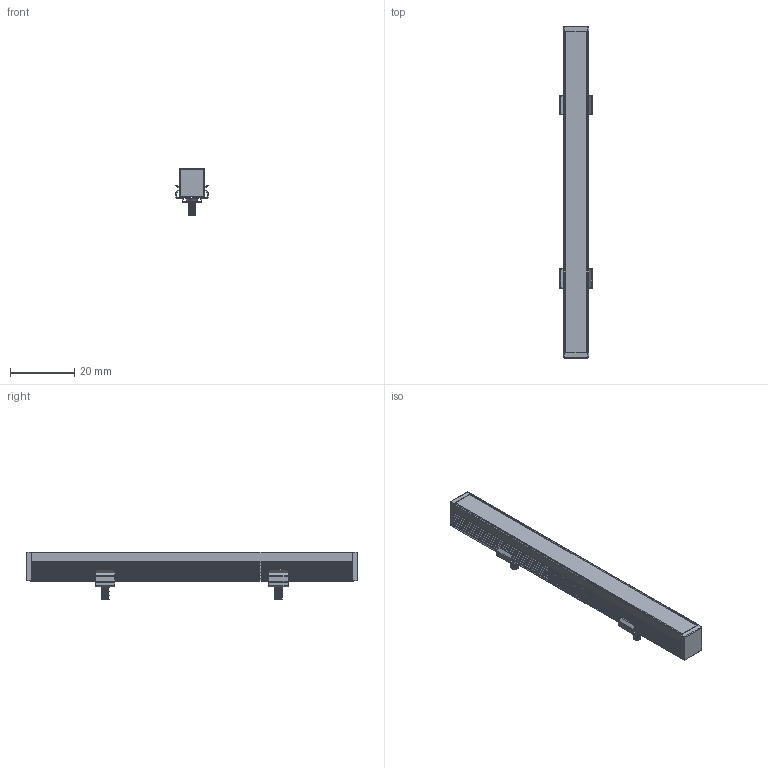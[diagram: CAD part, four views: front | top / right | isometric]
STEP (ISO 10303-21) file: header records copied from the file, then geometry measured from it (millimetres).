
FILE_DESCRIPTION(/* description */ (''),/* implementation_level */ '2;1');
FILE_NAME(/* name */ 'c:\worker\convert-fusion-r02\tmp\job-1\179\output\files\2b09b717-591d-4fba-9476-1ad6d976910a\e2e9d39c-b6fc-4b50-996d-60b303b06c82.stp',/* time_stamp */ '2022-03-30T12:53:54+00:00',/* author */ (''),/* organization */ (''),/* preprocessor_version */ 'ST-DEVELOPER v18.1',/* originating_system */ 'Autodesk Translation Framework v10.14.0.1471',/* authorisation */ '');
FILE_SCHEMA (('AUTOMOTIVE_DESIGN { 1 0 10303 214 3 1 1 }'));
Length unit declared in the file: millimetre
Products named in the file (10): CHAN-789; End Cap; LED Strip Light; LED Strip Light (1); Aluminium Profile; Light Diffuser / Lens; Mounting Bracket; Mounting Bracket (1); End Cap w/ Cable Out; M3x6mm
Assembly tree (10 placements, depth 2):
  CHAN-789
    M3x6mm  x2
    End Cap
    LED Strip Light
    LED Strip Light (1)
    Aluminium Profile
    Light Diffuser / Lens
    Mounting Bracket
    Mounting Bracket (1)
    End Cap w/ Cable Out
Bounding box: 10 x 103.51 x 14.85 mm (x, y, z)
Volume: 3716.4 mm3; surface area: 10341.7 mm2
Topology: 82 solids, 82 shells, 1191 faces, 2853 edges, 1802 vertices
Faces by surface type: plane 576, cylinder 429, bspline 84, sphere 56, torus 36, cone 10
Full cylindrical faces by diameter (mm): 1.884 x8, 2.342 x14, 2.5 x2, 3 x1
Entity records: 35524 total; most frequent: CARTESIAN_POINT 9956, DIRECTION 5218, ORIENTED_EDGE 5152, EDGE_CURVE 2576, AXIS2_PLACEMENT_3D 1780, LINE 1658, VECTOR 1658, VERTEX_POINT 1658
